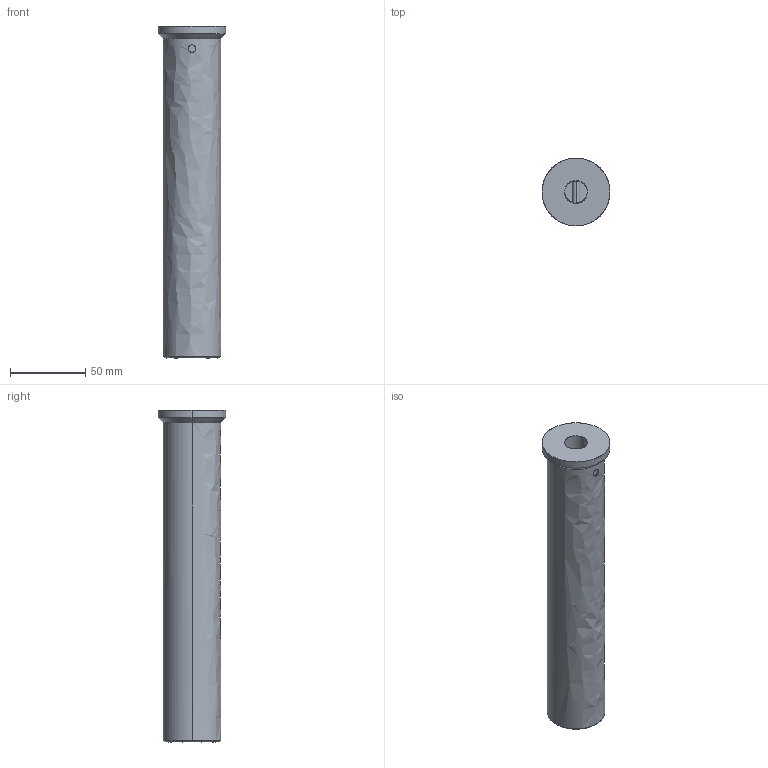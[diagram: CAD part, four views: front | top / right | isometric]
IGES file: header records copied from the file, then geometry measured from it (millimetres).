
Global section: file name: E:\UnigraphicsGraphicData\MISUMI_PRESS-PARTS\IGES\3d_lcup38-220_01350_r00.igs; native system: NX V5.0; preprocessor: UGS NX IGES V5.0; author: MISUMI; date: 20110105.161156; units: millimetre
Bounding box: 45 x 45 x 220 mm (x, y, z)
Surface area: 31243.9 mm2 (no closed solid volume)
Topology: 0 solids, 0 shells, 19 faces, 146 edges, 146 vertices
Faces by surface type: bspline 19
